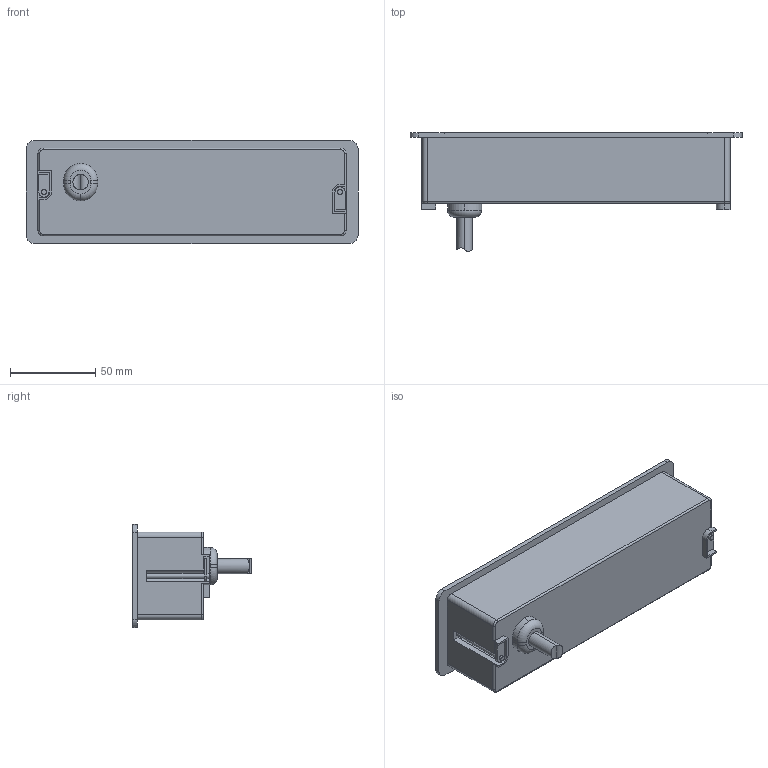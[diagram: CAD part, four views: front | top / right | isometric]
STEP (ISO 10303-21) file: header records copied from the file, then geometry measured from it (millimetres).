
FILE_DESCRIPTION (( 'STEP AP203' ), '1' );
FILE_NAME ('14-0960_SEAMLESS.STEP', '2026-01-19T05:49:07', ( '' ), ( '' ), 'SwSTEP 2.0', 'SolidWorks 2025', '' );
FILE_SCHEMA (( 'CONFIG_CONTROL_DESIGN' ));
Length unit declared in the file: millimetre
Products named in the file (1): 14-0960_SEAMLESS
Bounding box: 194.7 x 69.5 x 60.5 mm (x, y, z)
Volume: 391062.8 mm3; surface area: 48632 mm2
Topology: 1 solids, 1 shells, 209 faces, 517 edges, 340 vertices
Faces by surface type: plane 149, cylinder 53, torus 7
Entity records: 6305 total; most frequent: CARTESIAN_POINT 1149, DIRECTION 1046, ORIENTED_EDGE 1034, EDGE_CURVE 517, VECTOR 404, LINE 404, VERTEX_POINT 340, AXIS2_PLACEMENT_3D 321
